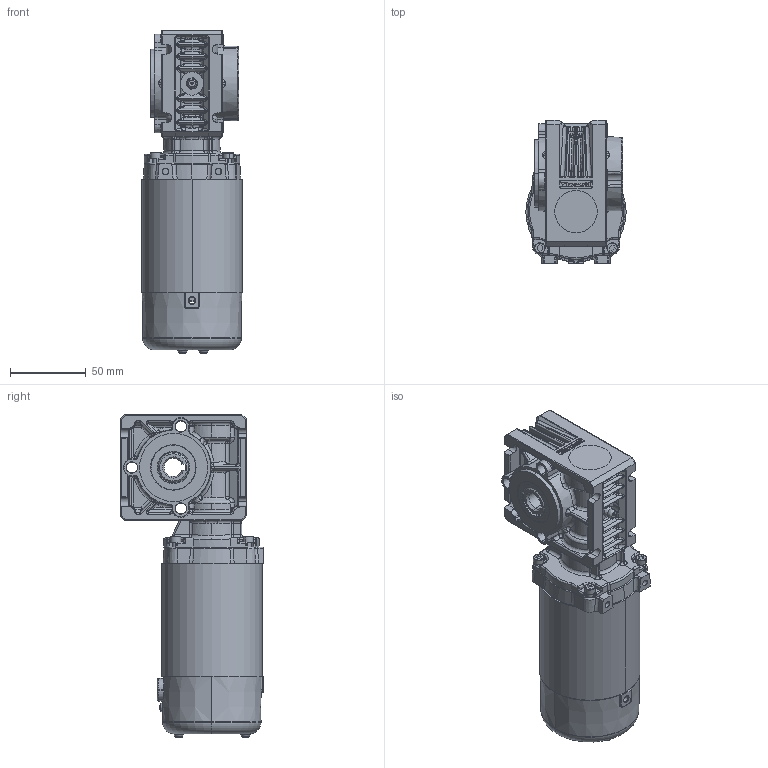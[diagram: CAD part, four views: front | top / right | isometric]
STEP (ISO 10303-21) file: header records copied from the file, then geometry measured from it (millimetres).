
FILE_DESCRIPTION (( 'STEP AP214' ), '1' );
FILE_NAME ('PM11-GB28.STEP', '2021-07-19T15:45:13', ( '' ), ( '' ), 'SwSTEP 2.0', 'SolidWorks 2020', '' );
FILE_SCHEMA (( 'AUTOMOTIVE_DESIGN' ));
Length unit declared in the file: millimetre
Products named in the file (1): PM11-GB28
Bounding box: 66.19 x 94.2 x 213.24 mm (x, y, z)
Surface area: 127813.2 mm2 (no closed solid volume)
Topology: 0 solids, 31 shells, 2907 faces, 7346 edges, 4450 vertices
Faces by surface type: plane 1157, bspline 646, cylinder 627, cone 247, torus 124, sphere 106
Entity records: 138865 total; most frequent: CARTESIAN_POINT 43827, ORIENTED_EDGE 14198, DIRECTION 11824, EDGE_CURVE 7221, VERTEX_POINT 4434, AXIS2_PLACEMENT_3D 4396, EDGE_LOOP 3038, VECTOR 3032
